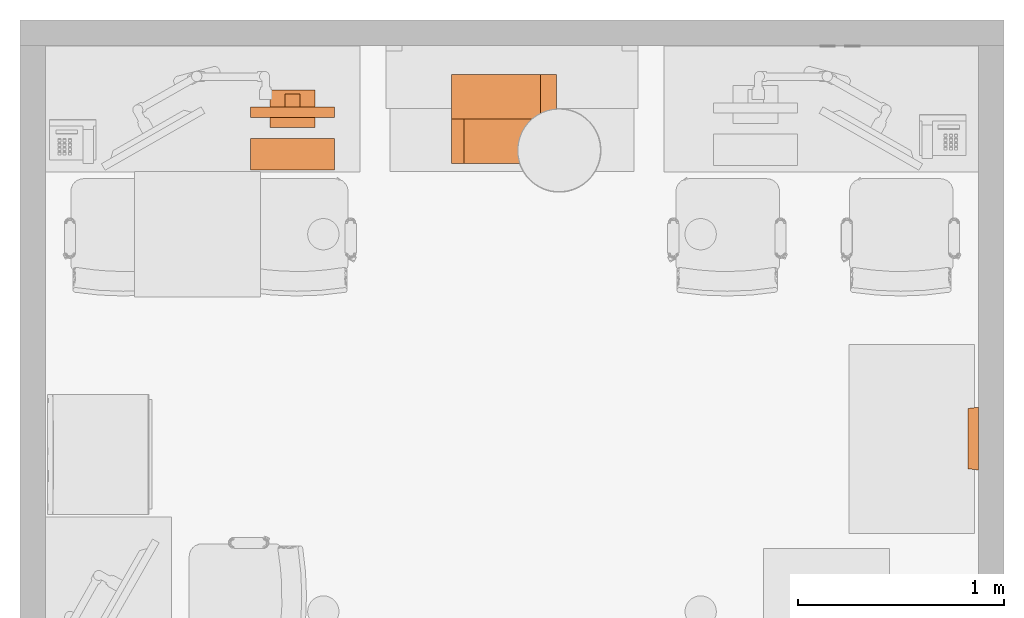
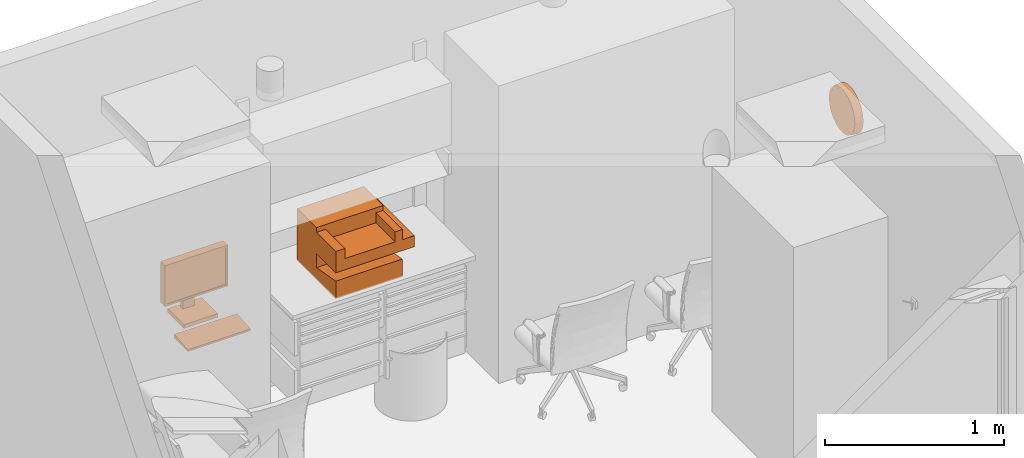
# One storey, part 14 of 15: 3 proxies.
"""IFC2X3 building model written with IfcOpenShell, lengths in feet."""

from ifc_helpers import new_model, entity, si_unit, converted_unit, derived_unit, direction, frame, origin, place, context, subcontext, project, spatial, faceted_brep, source, transform, mapped, material, type_object, type_shapes, element, save


model = new_model("IFC2X3")

# Units and contexts
model_context = context("Model", 3, precision=0.0001, world=origin(), true_north=direction((6.12303176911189e-17, 1.0)))
body_context = subcontext(model_context, "Body", "Model", "MODEL_VIEW")
ifc_project = project(units=[converted_unit("LENGTHUNIT", "FOOT", entity("IfcRatioMeasure", 0.3048), si_unit("LENGTHUNIT", "METRE"), dimensions=[1, 0, 0, 0, 0, 0, 0]), converted_unit("AREAUNIT", "SQUARE FOOT", entity("IfcRatioMeasure", 0.09290304), si_unit("AREAUNIT", "SQUARE_METRE"), dimensions=[2, 0, 0, 0, 0, 0, 0]), converted_unit("VOLUMEUNIT", "CUBIC FOOT", entity("IfcRatioMeasure", 0.028316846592), si_unit("VOLUMEUNIT", "CUBIC_METRE"), dimensions=[3, 0, 0, 0, 0, 0, 0]), converted_unit("PLANEANGLEUNIT", "DEGREE", entity("IfcRatioMeasure", 0.0174532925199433), si_unit("PLANEANGLEUNIT", "RADIAN"), dimensions=[0, 0, 0, 0, 0, 0, 0]), si_unit("MASSUNIT", "GRAM", prefix="KILO"), derived_unit("MASSDENSITYUNIT", [(si_unit("MASSUNIT", "GRAM", prefix="KILO"), 1), (si_unit("LENGTHUNIT", "METRE"), -3)]), si_unit("TIMEUNIT", "SECOND"), si_unit("FREQUENCYUNIT", "HERTZ"), si_unit("THERMODYNAMICTEMPERATUREUNIT", "DEGREE_CELSIUS"), derived_unit("THERMALTRANSMITTANCEUNIT", [(si_unit("MASSUNIT", "GRAM", prefix="KILO"), 1), (si_unit("THERMODYNAMICTEMPERATUREUNIT", "KELVIN"), -1), (si_unit("TIMEUNIT", "SECOND"), -3)]), derived_unit("VOLUMETRICFLOWRATEUNIT", [(si_unit("LENGTHUNIT", "METRE"), 3), (si_unit("TIMEUNIT", "SECOND"), -1)]), si_unit("ELECTRICCURRENTUNIT", "AMPERE"), si_unit("ELECTRICVOLTAGEUNIT", "VOLT"), si_unit("POWERUNIT", "WATT"), si_unit("FORCEUNIT", "NEWTON"), si_unit("ILLUMINANCEUNIT", "LUX"), si_unit("LUMINOUSFLUXUNIT", "LUMEN"), si_unit("LUMINOUSINTENSITYUNIT", "CANDELA"), derived_unit("USERDEFINED", [(si_unit("MASSUNIT", "GRAM", prefix="KILO"), -1), (si_unit("LENGTHUNIT", "METRE"), -2), (si_unit("TIMEUNIT", "SECOND"), 3), (si_unit("LUMINOUSFLUXUNIT", "LUMEN"), 1)]), derived_unit("LINEARVELOCITYUNIT", [(si_unit("LENGTHUNIT", "METRE"), 1), (si_unit("TIMEUNIT", "SECOND"), -1)]), si_unit("PRESSUREUNIT", "PASCAL"), derived_unit("USERDEFINED", [(si_unit("LENGTHUNIT", "METRE"), -2), (si_unit("MASSUNIT", "GRAM", prefix="KILO"), 1), (si_unit("TIMEUNIT", "SECOND"), -2)])], contexts=[model_context])

# Site, building, storey, space
site_placement = place(None, origin())
site = spatial("IfcSite", under=ifc_project, at=site_placement, Name="Default", CompositionType="ELEMENT")
building_placement = place(site_placement, origin())
building = spatial("IfcBuilding", under=site, at=building_placement, Name="EYE CLINIC:  OPTHALMOLOGY AND OPTOMETRY SERVICES (Ch. 233)", CompositionType="ELEMENT")
storey_placement = place(building_placement, origin())
storey = spatial("IfcBuildingStorey", under=building, at=storey_placement, Name="DATUM", CompositionType="ELEMENT", Elevation=0.0)
space_placement = place(storey_placement, origin())
space = spatial("IfcSpace", under=storey, at=space_placement, Name="(OPLV2)", CompositionType="ELEMENT", InteriorOrExteriorSpace="INTERNAL")

# Proxies
building_element_proxy_type_1 = type_object("IfcBuildingElementProxyType", Name="M1825 - Printer, Computer", PredefinedType="NOTDEFINED")
shared_shape_1 = source(origin(), body_context, "Body", "Brep", [
    faceted_brep([(0.708333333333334, 0.833333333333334, 1.16666666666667), (0.0, 0.833333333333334, 1.16666666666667), (0.0, -0.581380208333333, 1.16666666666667), (0.708333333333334, -0.581380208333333, 1.16666666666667), (-0.708333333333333, 0.833333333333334, 0.0), (0.708333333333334, 0.833333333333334, 0.0), (0.708333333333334, -0.581380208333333, 0.0), (-0.708333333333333, -0.581380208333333, 0.0), (-0.708333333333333, 0.833333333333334, 0.395998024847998), (0.0, 0.833333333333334, 0.269898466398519), (0.0, 0.833333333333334, 0.583333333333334), (-0.708333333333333, 0.833333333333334, 0.583333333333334), (-0.708333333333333, 0.833333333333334, 1.05907956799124), (0.0, 0.833333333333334, 1.05907956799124), (-0.708333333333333, 0.641381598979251, 1.05907956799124), (-0.708333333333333, -0.833333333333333, 0.583333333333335), (-0.708333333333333, -0.833333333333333, 0.833333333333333), (-0.708333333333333, -0.581380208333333, 0.833333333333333), (-0.708333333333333, -0.581380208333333, 1.05907956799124), (-0.708333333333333, -0.425130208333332, 1.05907956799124), (-0.708333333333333, -0.425130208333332, 0.833333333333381), (-0.708333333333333, 0.641381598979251, 0.833333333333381), (0.708333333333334, -0.833333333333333, 0.833333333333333), (0.708333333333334, -0.833333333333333, 0.58333333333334), (0.708333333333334, -0.581380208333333, 0.833333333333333), (0.708333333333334, -0.581380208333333, 0.58333333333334), (0.0, -0.425130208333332, 1.05907956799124), (0.0, -0.581380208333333, 1.05907956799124), (0.0, 0.641381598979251, 1.05907956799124), (0.0, 0.641381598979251, 0.833333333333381), (0.0, -0.425130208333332, 0.833333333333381), (0.0, -0.581380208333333, 0.583333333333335), (-0.708333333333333, -0.581380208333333, 0.395998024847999), (0.0, -0.581380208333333, 0.269898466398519)], [[[0, 1, 2, 3]], [[4, 5, 6, 7]], [[5, 4, 8, 9, 10, 11, 12, 13, 1, 0]], [[14, 12, 11, 15, 16, 17, 18, 19, 20, 21]], [[22, 16, 15, 23]], [[5, 0, 3, 24, 22, 23, 25, 6]], [[26, 19, 18, 27]], [[1, 13, 28, 29, 30, 26, 27, 2]], [[30, 20, 19, 26]], [[30, 29, 21, 20]], [[21, 29, 28, 14]], [[24, 17, 16, 22]], [[17, 24, 3, 2, 27, 18]], [[11, 10, 31, 25, 23, 15]], [[9, 8, 32, 33]], [[10, 9, 33, 31]], [[25, 31, 33, 32, 7, 6]], [[13, 12, 14, 28]], [[8, 4, 7, 32]]]),
])
type_shapes(building_element_proxy_type_1, [shared_shape_1])
proxy_1_placement = place(space_placement, frame((342.098102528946, 10.1409590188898, 3.0), z_axis=(0.0, 0.0, 1.0), x_axis=(0.0, 1.0, 0.0)))
element("IfcBuildingElementProxy", 1, at=proxy_1_placement, inside=space, type_object=building_element_proxy_type_1, Name="M1825 - Printer, Computer:M1825 - Printer, Computer", ObjectType="M1825 - Printer, Computer", context=body_context, shape_type="MappedRepresentation", body=[
    mapped(shared_shape_1, transform((0.0, 0.0, 0.0), scale=1.0)),
])
ifc_material = material(Name="WHITE")
building_element_proxy_type_2 = type_object("IfcBuildingElementProxyType", Name="F3200 - Clock, Battery, 12in Dia", PredefinedType="NOTDEFINED", material=ifc_material)
shared_shape_2 = source(origin(), body_context, "Body", "Brep", [
    faceted_brep([(0.218750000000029, 0.121113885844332, 0.16666666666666), (0.309359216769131, 0.190640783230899, 0.16666666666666), (0.3788861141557, 0.281250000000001, 0.16666666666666), (0.422592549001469, 0.386766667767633, 0.16666666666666), (0.437500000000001, 0.499999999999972, 0.16666666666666), (0.42259254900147, 0.613233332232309, 0.16666666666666), (0.378886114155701, 0.718749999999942, 0.16666666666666), (0.309359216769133, 0.809359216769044, 0.16666666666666), (0.218750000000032, 0.878886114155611, 0.16666666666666), (0.113233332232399, 0.922592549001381, 0.16666666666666), (0.0, 0.937499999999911, 0.16666666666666), (-0.113233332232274, 0.922592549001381, 0.16666666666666), (-0.218749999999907, 0.878886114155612, 0.16666666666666), (-0.309359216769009, 0.809359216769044, 0.16666666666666), (-0.378886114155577, 0.718749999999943, 0.16666666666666), (-0.422592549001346, 0.613233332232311, 0.16666666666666), (-0.437499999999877, 0.499999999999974, 0.16666666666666), (-0.422592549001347, 0.386766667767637, 0.16666666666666), (-0.378886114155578, 0.281250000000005, 0.16666666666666), (-0.309359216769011, 0.190640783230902, 0.16666666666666), (-0.218749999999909, 0.121113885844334, 0.16666666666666), (-0.113233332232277, 0.0774074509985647, 0.16666666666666), (0.0, 0.0625000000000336, 0.16666666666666), (0.113233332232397, 0.0774074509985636, 0.16666666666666), (0.42259254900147, 0.613233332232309, 0.145833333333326), (0.437500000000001, 0.49999999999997, 0.145833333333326), (0.422592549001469, 0.386766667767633, 0.145833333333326), (0.3788861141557, 0.281250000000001, 0.145833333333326), (0.309359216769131, 0.190640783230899, 0.145833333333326), (0.218750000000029, 0.121113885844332, 0.145833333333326), (0.113233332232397, 0.0774074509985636, 0.145833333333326), (0.0, 0.0625000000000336, 0.145833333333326), (-0.113233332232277, 0.0774074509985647, 0.145833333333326), (-0.218749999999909, 0.121113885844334, 0.145833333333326), (-0.309359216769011, 0.190640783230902, 0.145833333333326), (-0.378886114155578, 0.281250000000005, 0.145833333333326), (-0.422592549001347, 0.386766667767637, 0.145833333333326), (-0.437499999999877, 0.499999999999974, 0.145833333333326), (-0.422592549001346, 0.613233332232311, 0.145833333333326), (-0.378886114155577, 0.718749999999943, 0.145833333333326), (-0.309359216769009, 0.809359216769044, 0.145833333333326), (-0.218749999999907, 0.878886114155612, 0.145833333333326), (-0.113233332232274, 0.922592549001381, 0.145833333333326), (0.0, 0.937499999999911, 0.145833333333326), (0.113233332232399, 0.922592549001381, 0.145833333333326), (0.218750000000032, 0.878886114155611, 0.145833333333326), (0.309359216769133, 0.809359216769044, 0.145833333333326), (0.378886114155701, 0.718749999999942, 0.145833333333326)], [[[0, 1, 2, 3, 4, 5, 6, 7, 8, 9, 10, 11, 12, 13, 14, 15, 16, 17, 18, 19, 20, 21, 22, 23]], [[24, 25, 26, 27, 28, 29, 30, 31, 32, 33, 34, 35, 36, 37, 38, 39, 40, 41, 42, 43, 44, 45, 46, 47]], [[36, 17, 16, 37]], [[35, 18, 17, 36]], [[20, 19, 34, 33]], [[35, 34, 19, 18]], [[21, 20, 33, 32]], [[22, 21, 32, 31]], [[30, 23, 22, 31]], [[29, 0, 23, 30]], [[2, 1, 28, 27]], [[29, 28, 1, 0]], [[3, 2, 27, 26]], [[4, 3, 26, 25]], [[24, 5, 4, 25]], [[47, 6, 5, 24]], [[8, 7, 46, 45]], [[47, 46, 7, 6]], [[9, 8, 45, 44]], [[10, 9, 44, 43]], [[11, 10, 43, 42]], [[12, 11, 42, 41]], [[14, 39, 38, 15]], [[15, 38, 37, 16]], [[12, 41, 40, 13]], [[40, 39, 14, 13]]]),
    faceted_brep([(-0.327430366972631, 0.122125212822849, 0.0), (-0.420626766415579, 0.229679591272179, 0.0), (0.0, 0.499999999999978, 0.0), (-0.207707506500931, 0.045184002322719, 0.0), (-0.479746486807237, 0.359133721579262, 0.0), (-0.499999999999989, 0.499999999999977, 0.0), (-0.479746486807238, 0.640866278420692, 0.0), (-0.420626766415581, 0.770320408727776, 0.0), (-0.327430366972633, 0.877874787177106, 0.0), (-0.207707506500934, 0.954815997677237, 0.0), (-0.0711574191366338, 0.994910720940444, 0.0), (0.0711574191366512, 0.994910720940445, 0.0), (0.207707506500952, 0.954815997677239, 0.0), (0.327430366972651, 0.877874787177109, 0.0), (0.4206267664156, 0.77032040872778, 0.0), (0.479746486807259, 0.640866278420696, 0.0), (0.500000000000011, 0.499999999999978, 0.0), (0.47974648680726, 0.359133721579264, 0.0), (0.420626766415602, 0.22967959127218, 0.0), (0.327430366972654, 0.12212521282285, 0.0), (0.207707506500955, 0.0451840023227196, 0.0), (0.0711574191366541, 0.00508927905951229, 0.0), (-0.0711574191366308, 0.00508927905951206, 0.0), (0.0, 0.499999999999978, 0.145833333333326), (-0.368048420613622, 0.263469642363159, 0.145833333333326), (-0.286501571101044, 0.169359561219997, 0.145833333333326), (-0.419778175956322, 0.376742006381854, 0.145833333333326), (-0.181744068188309, 0.102036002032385, 0.145833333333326), (-0.0622627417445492, 0.0669531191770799, 0.145833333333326), (-0.437499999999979, 0.499999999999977, 0.145833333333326), (0.0622627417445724, 0.0669531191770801, 0.145833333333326), (0.181744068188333, 0.102036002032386, 0.145833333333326), (0.286501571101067, 0.169359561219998, 0.145833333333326), (0.368048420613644, 0.26346964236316, 0.145833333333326), (0.419778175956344, 0.376742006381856, 0.145833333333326), (0.437500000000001, 0.499999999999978, 0.145833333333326), (-0.419778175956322, 0.623257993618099, 0.145833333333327), (-0.368048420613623, 0.736530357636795, 0.145833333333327), (-0.286501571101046, 0.830640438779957, 0.145833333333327), (-0.181744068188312, 0.89796399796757, 0.145833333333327), (-0.0622627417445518, 0.933046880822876, 0.145833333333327), (0.419778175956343, 0.623257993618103, 0.145833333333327), (0.368048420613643, 0.736530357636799, 0.145833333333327), (0.286501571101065, 0.83064043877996, 0.145833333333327), (0.18174406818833, 0.897963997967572, 0.145833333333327), (0.0622627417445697, 0.933046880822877, 0.145833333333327), (0.419778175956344, 0.376742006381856, 0.16666666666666), (0.437500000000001, 0.499999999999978, 0.16666666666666), (0.368048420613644, 0.26346964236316, 0.16666666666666), (0.0622627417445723, 0.0669531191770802, 0.166666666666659), (0.181744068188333, 0.102036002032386, 0.166666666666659), (0.286501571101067, 0.169359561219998, 0.166666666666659), (-0.0622627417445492, 0.06695311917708, 0.166666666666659), (-0.286501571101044, 0.169359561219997, 0.166666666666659), (-0.18174406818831, 0.102036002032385, 0.166666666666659), (-0.437499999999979, 0.499999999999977, 0.16666666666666), (-0.419778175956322, 0.376742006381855, 0.16666666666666), (-0.368048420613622, 0.263469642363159, 0.16666666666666), (-0.419778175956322, 0.623257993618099, 0.16666666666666), (-0.368048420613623, 0.736530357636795, 0.16666666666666), (-0.181744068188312, 0.89796399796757, 0.166666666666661), (-0.286501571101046, 0.830640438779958, 0.166666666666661), (-0.0622627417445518, 0.933046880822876, 0.166666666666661), (0.0622627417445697, 0.933046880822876, 0.166666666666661), (0.18174406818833, 0.897963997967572, 0.166666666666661), (0.286501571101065, 0.83064043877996, 0.166666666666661), (0.419778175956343, 0.623257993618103, 0.16666666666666), (0.368048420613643, 0.736530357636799, 0.16666666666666), (-0.459757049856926, 0.365003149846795, 0.16666666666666), (-0.479166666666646, 0.499999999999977, 0.16666666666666), (-0.403100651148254, 0.240942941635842, 0.16666666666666), (-0.313787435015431, 0.137869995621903, 0.166666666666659), (-0.199053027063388, 0.0641346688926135, 0.166666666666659), (-0.0681925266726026, 0.0257105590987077, 0.166666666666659), (0.068192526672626, 0.0257105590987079, 0.166666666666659), (0.199053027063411, 0.0641346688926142, 0.166666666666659), (0.313787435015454, 0.137869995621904, 0.166666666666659), (0.403100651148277, 0.240942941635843, 0.16666666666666), (0.459757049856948, 0.365003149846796, 0.16666666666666), (0.479166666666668, 0.499999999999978, 0.16666666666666), (0.459757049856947, 0.634996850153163, 0.16666666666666), (0.403100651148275, 0.759057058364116, 0.16666666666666), (0.313787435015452, 0.862130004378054, 0.166666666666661), (0.199053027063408, 0.935865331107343, 0.166666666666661), (0.068192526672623, 0.974289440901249, 0.166666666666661), (-0.0681925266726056, 0.974289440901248, 0.166666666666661), (-0.199053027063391, 0.935865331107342, 0.166666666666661), (-0.313787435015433, 0.862130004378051, 0.166666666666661), (-0.403100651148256, 0.759057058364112, 0.16666666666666), (-0.459757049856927, 0.634996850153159, 0.16666666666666)], [[[0, 1, 2]], [[0, 2, 3]], [[4, 2, 1]], [[2, 4, 5]], [[5, 6, 2]], [[2, 6, 7]], [[2, 7, 8]], [[2, 8, 9]], [[9, 10, 2]], [[11, 2, 10]], [[2, 11, 12]], [[2, 12, 13]], [[14, 2, 13]], [[2, 14, 15]], [[15, 16, 2]], [[2, 16, 17]], [[2, 17, 18]], [[18, 19, 2]], [[19, 20, 2]], [[21, 2, 20]], [[2, 21, 22]], [[22, 3, 2]], [[23, 24, 25]], [[24, 23, 26]], [[27, 23, 25]], [[23, 27, 28]], [[29, 26, 23]], [[28, 30, 23]], [[31, 23, 30]], [[23, 31, 32]], [[23, 32, 33]], [[33, 34, 23]], [[34, 35, 23]], [[23, 36, 29]], [[37, 36, 23]], [[38, 37, 23]], [[39, 38, 23]], [[23, 40, 39]], [[23, 35, 41]], [[41, 42, 23]], [[43, 23, 42]], [[43, 44, 23]], [[44, 45, 23]], [[40, 23, 45]], [[46, 47, 35, 34]], [[46, 34, 33, 48]], [[31, 30, 49, 50]], [[32, 31, 50, 51]], [[51, 48, 33, 32]], [[30, 28, 52, 49]], [[27, 25, 53, 54]], [[28, 27, 54, 52]], [[29, 55, 56, 26]], [[26, 56, 57, 24]], [[24, 57, 53, 25]], [[55, 29, 36, 58]], [[58, 36, 37, 59]], [[60, 61, 38, 39]], [[59, 37, 38, 61]], [[39, 40, 62, 60]], [[40, 45, 63, 62]], [[64, 63, 45, 44]], [[64, 44, 43, 65]], [[41, 35, 47, 66]], [[42, 41, 66, 67]], [[67, 65, 43, 42]], [[68, 55, 69]], [[56, 55, 68]], [[68, 70, 56]], [[70, 57, 56]], [[71, 57, 70]], [[57, 71, 53]], [[72, 53, 71]], [[54, 53, 72]], [[72, 73, 54]], [[73, 52, 54]], [[49, 52, 73]], [[73, 74, 49]], [[74, 50, 49]], [[75, 50, 74]], [[50, 75, 51]], [[76, 51, 75]], [[48, 51, 76]], [[76, 77, 48]], [[77, 46, 48]], [[78, 46, 77]], [[46, 78, 47]], [[78, 79, 47]], [[79, 80, 47]], [[66, 47, 80]], [[80, 81, 66]], [[66, 81, 67]], [[82, 67, 81]], [[67, 82, 65]], [[65, 82, 83]], [[64, 65, 83]], [[83, 84, 64]], [[64, 84, 63]], [[85, 63, 84]], [[63, 85, 62]], [[62, 85, 60]], [[86, 60, 85]], [[60, 86, 61]], [[61, 86, 87]], [[59, 61, 87]], [[87, 88, 59]], [[59, 88, 58]], [[89, 58, 88]], [[55, 89, 69]], [[58, 89, 55]], [[78, 17, 16, 79]], [[77, 18, 17, 78]], [[19, 76, 75, 20]], [[77, 76, 19, 18]], [[20, 75, 74, 21]], [[74, 73, 22, 21]], [[22, 73, 72, 3]], [[0, 3, 72, 71]], [[4, 1, 70, 68]], [[70, 1, 0, 71]], [[5, 4, 68, 69]], [[89, 6, 5, 69]], [[88, 7, 6, 89]], [[8, 87, 86, 9]], [[88, 87, 8, 7]], [[9, 86, 85, 10]], [[85, 84, 11, 10]], [[83, 12, 11, 84]], [[82, 13, 12, 83]], [[14, 81, 80, 15]], [[82, 81, 14, 13]], [[15, 80, 79, 16]]]),
])
type_shapes(building_element_proxy_type_2, [shared_shape_2])
proxy_2_placement = place(space_placement, frame((349.639769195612, 5.05762568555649, 6.50000000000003), z_axis=(-1.0, 0.0, 0.0), x_axis=(0.0, -1.0, 0.0)))
element("IfcBuildingElementProxy", 2, at=proxy_2_placement, inside=space, type_object=building_element_proxy_type_2, material=ifc_material, Name="F3200 - Clock, Battery, 12in Dia:F3200 - Clock, Battery, 12in Dia", ObjectType="F3200 - Clock, Battery, 12in Dia", context=body_context, shape_type="MappedRepresentation", body=[
    mapped(shared_shape_2, transform((0.0, 0.0, 0.0), scale=1.0)),
])
building_element_proxy_type_3 = type_object("IfcBuildingElementProxyType", Name="M1801 Computer", PredefinedType="NOTDEFINED")
shared_shape_3 = source(origin(), body_context, "Body", "Brep", [
    faceted_brep([(0.666666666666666, -0.437223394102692, 1.41666666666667), (0.666666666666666, -0.271109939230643, 1.41666666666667), (-0.666666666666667, -0.271109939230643, 1.41666666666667), (-0.666666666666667, -0.437223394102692, 1.41666666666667), (0.666666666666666, -0.437223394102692, 0.500000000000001), (-0.666666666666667, -0.437223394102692, 0.500000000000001), (-0.666666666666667, -0.271109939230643, 0.500000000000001), (0.666666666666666, -0.271109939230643, 0.500000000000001), (-0.625, -0.271109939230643, 1.375), (-0.625, -0.271109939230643, 0.541666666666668), (0.625, -0.271109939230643, 0.541666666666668), (0.625, -0.271109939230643, 1.375), (0.625, -0.286812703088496, 1.375), (-0.625, -0.286812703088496, 1.375), (0.625, -0.286812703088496, 0.541666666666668), (-0.625, -0.286812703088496, 0.541666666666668)], [[[0, 1, 2, 3]], [[4, 5, 6, 7]], [[3, 5, 4, 0]], [[2, 6, 5, 3]], [[8, 9, 10, 11], [1, 7, 6, 2]], [[0, 4, 7, 1]], [[12, 13, 8, 11]], [[14, 10, 9, 15]], [[12, 14, 15, 13]], [[13, 15, 9, 8]], [[11, 10, 14, 12]]], outer=[[True], [True], [True], [True], [False, True], [True], [True], [True], [True], [True], [True]]),
    faceted_brep([(0.358011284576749, -0.111770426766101, 0.0833333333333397), (0.358011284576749, -0.708333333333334, 0.0833333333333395), (0.358011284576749, -0.708333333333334, 0.0), (0.358011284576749, -0.111770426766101, 0.0), (-0.358011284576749, -0.708333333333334, 0.0833333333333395), (-0.358011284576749, -0.111770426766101, 0.0833333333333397), (-0.358011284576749, -0.111770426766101, 0.0), (-0.358011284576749, -0.708333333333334, 0.0), (0.12128795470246, -0.645556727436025, 0.104166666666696), (-0.12128795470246, -0.645556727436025, 0.104166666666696), (-0.12128795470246, -0.645556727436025, 0.0833333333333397), (0.12128795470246, -0.645556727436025, 0.0833333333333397), (0.12128795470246, -0.645556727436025, 0.958333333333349), (-0.12128795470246, -0.645556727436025, 0.958333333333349), (0.12128795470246, -0.437223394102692, 0.958333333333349), (-0.12128795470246, -0.437223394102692, 0.958333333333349), (0.12128795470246, -0.437223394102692, 0.791666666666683), (-0.12128795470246, -0.437223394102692, 0.791666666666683), (0.12128795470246, -0.562223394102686, 0.791666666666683), (-0.12128795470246, -0.562223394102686, 0.791666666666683), (0.12128795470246, -0.562223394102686, 0.0833333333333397), (-0.12128795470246, -0.562223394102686, 0.0833333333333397)], [[[0, 1, 2, 3]], [[4, 5, 6, 7]], [[8, 9, 10, 11]], [[12, 13, 9, 8]], [[14, 15, 13, 12]], [[16, 17, 15, 14]], [[18, 19, 17, 16]], [[20, 21, 19, 18]], [[11, 10, 21, 20], [0, 5, 4, 1]], [[3, 6, 5, 0]], [[2, 7, 6, 3]], [[1, 4, 7, 2]], [[20, 18, 16, 14, 12, 8, 11]], [[10, 9, 13, 15, 17, 19, 21]]], outer=[[True], [True], [True], [True], [True], [True], [True], [True], [False, True], [True], [True], [True], [True], [True]]),
    faceted_brep([(0.666666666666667, 0.5625, 0.0), (0.666666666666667, 0.5625, 0.0416666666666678), (0.666666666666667, 0.0624999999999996, 0.0833333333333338), (0.666666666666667, 0.0624999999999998, 0.0), (-0.666666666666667, 0.5625, 0.0), (-0.666666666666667, 0.0624999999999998, 0.0), (-0.666666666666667, 0.0624999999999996, 0.0833333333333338), (-0.666666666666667, 0.5625, 0.0416666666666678)], [[[0, 1, 2, 3]], [[4, 5, 6, 7]], [[3, 5, 4, 0]], [[2, 6, 5, 3]], [[1, 7, 6, 2]], [[0, 4, 7, 1]]]),
])
type_shapes(building_element_proxy_type_3, [shared_shape_3])
proxy_3_placement = place(space_placement, frame((338.733519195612, 9.89095901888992, 2.99921907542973), z_axis=(0.0, 0.0, 1.0), x_axis=(-1.0, 0.0, 0.0)))
element("IfcBuildingElementProxy", 3, at=proxy_3_placement, inside=space, type_object=building_element_proxy_type_3, Name="M1801 - Computer, Microprocessing, With Flat Panel Monitor:M1801 Computer", ObjectType="M1801 Computer", context=body_context, shape_type="MappedRepresentation", body=[
    mapped(shared_shape_3, transform((0.0, 0.0, 0.0), scale=1.0)),
])

save(model, "model.ifc")
